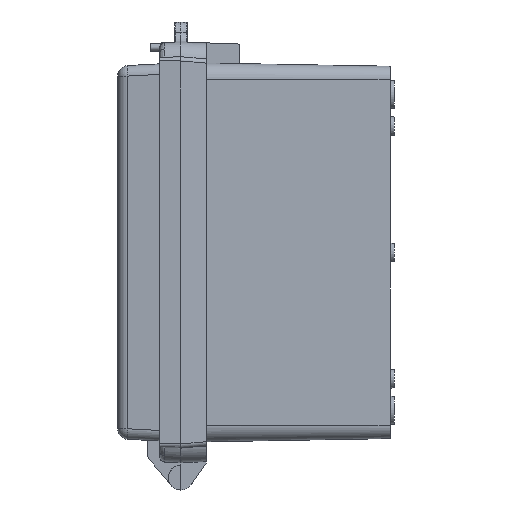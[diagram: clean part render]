
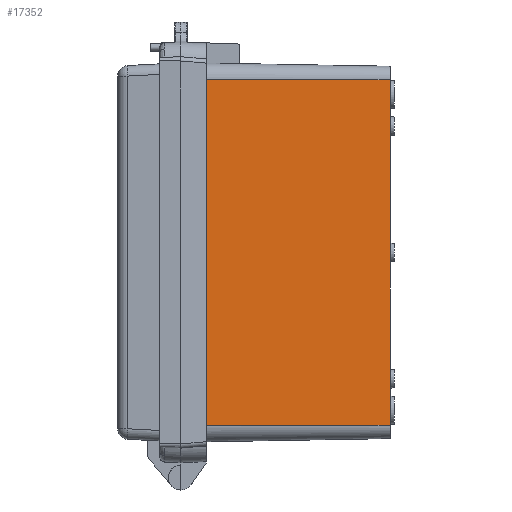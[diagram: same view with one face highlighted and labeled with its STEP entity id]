
A CAD part, left-side view. The second image highlights one B-rep face of the part: STEP entity #17352.
In plain terms, the highlighted planar face has unit normal (-1, -0.018, 0).
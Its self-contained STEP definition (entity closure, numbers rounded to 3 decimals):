
#340 = CARTESIAN_POINT ( 'NONE',  ( -140.148, -3.5, -1.597 ) ) ;
#463 = DIRECTION ( 'NONE',  ( 0., 0., -1. ) ) ;
#1056 = CARTESIAN_POINT ( 'NONE',  ( -140.148, -3.5, 61.597 ) ) ;
#1097 = CARTESIAN_POINT ( 'NONE',  ( -140.148, -3.5, -94.653 ) ) ;
#1313 = FACE_OUTER_BOUND ( 'NONE', #14521, .T. ) ;
#1485 = VERTEX_POINT ( 'NONE', #1056 ) ;
#1547 = VERTEX_POINT ( 'NONE', #18793 ) ;
#1633 = DIRECTION ( 'NONE',  ( -0.017, 0.999, -0.035 ) ) ;
#2095 = EDGE_CURVE ( 'NONE', #12551, #12545, #16197, .T. ) ;
#2211 = EDGE_CURVE ( 'NONE', #3135, #12884, #16615, .T. ) ;
#2596 = CARTESIAN_POINT ( 'NONE',  ( -140., -12., 61.3 ) ) ;
#2612 = CARTESIAN_POINT ( 'NONE',  ( -140.148, -3.5, -94.653 ) ) ;
#2636 = ORIENTED_EDGE ( 'NONE', *, *, #14193, .T. ) ;
#2866 = DIRECTION ( 'NONE',  ( 0., 0., -1. ) ) ;
#2896 = CARTESIAN_POINT ( 'NONE',  ( -140.148, -3.5, -58.403 ) ) ;
#2982 = EDGE_CURVE ( 'NONE', #5088, #3135, #17079, .T. ) ;
#3135 = VERTEX_POINT ( 'NONE', #14815 ) ;
#3246 = LINE ( 'NONE', #16284, #17435 ) ;
#3864 = VERTEX_POINT ( 'NONE', #340 ) ;
#3994 = CARTESIAN_POINT ( 'NONE',  ( -140.126, -4.764, -58.447 ) ) ;
#4062 = CARTESIAN_POINT ( 'NONE',  ( -138.474, -99.4, -82.15 ) ) ;
#4079 = ORIENTED_EDGE ( 'NONE', *, *, #9132, .F. ) ;
#4127 = DIRECTION ( 'NONE',  ( -0.017, 0.999, -0.035 ) ) ;
#4201 = VECTOR ( 'NONE', #8280, 1000. ) ;
#4220 = VECTOR ( 'NONE', #19032, 1000. ) ;
#5067 = DIRECTION ( 'NONE',  ( 0.017, -0.999, -0.035 ) ) ;
#5088 = VERTEX_POINT ( 'NONE', #2596 ) ;
#5094 = VERTEX_POINT ( 'NONE', #15632 ) ;
#5485 = VECTOR ( 'NONE', #18082, 1000. ) ;
#5583 = VECTOR ( 'NONE', #463, 1000. ) ;
#5787 = VECTOR ( 'NONE', #20586, 1000. ) ;
#6015 = DIRECTION ( 'NONE',  ( 0.017, -1., 0. ) ) ;
#6092 = EDGE_CURVE ( 'NONE', #19276, #1485, #18304, .T. ) ;
#6301 = EDGE_CURVE ( 'NONE', #1547, #12551, #12755, .T. ) ;
#6493 = ORIENTED_EDGE ( 'NONE', *, *, #6092, .T. ) ;
#6561 = VECTOR ( 'NONE', #16671, 1000. ) ;
#6982 = CARTESIAN_POINT ( 'NONE',  ( -140.09, -6.856, 1.48 ) ) ;
#7252 = VECTOR ( 'NONE', #14252, 1000. ) ;
#7393 = CARTESIAN_POINT ( 'NONE',  ( -140.148, -3.5, 1.597 ) ) ;
#7508 = ORIENTED_EDGE ( 'NONE', *, *, #18879, .T. ) ;
#7926 = DIRECTION ( 'NONE',  ( 0., 0., -1. ) ) ;
#7961 = VECTOR ( 'NONE', #5067, 1000. ) ;
#8017 = ORIENTED_EDGE ( 'NONE', *, *, #8118, .T. ) ;
#8027 = EDGE_CURVE ( 'NONE', #13348, #10864, #16933, .T. ) ;
#8051 = EDGE_CURVE ( 'NONE', #5094, #13655, #20122, .T. ) ;
#8118 = EDGE_CURVE ( 'NONE', #17836, #5094, #15641, .T. ) ;
#8280 = DIRECTION ( 'NONE',  ( 0., 0., -1. ) ) ;
#8370 = DIRECTION ( 'NONE',  ( 0.017, -1., 0. ) ) ;
#8461 = ORIENTED_EDGE ( 'NONE', *, *, #2211, .T. ) ;
#8593 = ORIENTED_EDGE ( 'NONE', *, *, #8027, .T. ) ;
#8686 = DIRECTION ( 'NONE',  ( -0.017, 0.999, -0.035 ) ) ;
#8836 = CARTESIAN_POINT ( 'NONE',  ( -140., -12., -94.653 ) ) ;
#9132 = EDGE_CURVE ( 'NONE', #12875, #12545, #19288, .T. ) ;
#9243 = AXIS2_PLACEMENT_3D ( 'NONE', #2612, #20437, #6015 ) ;
#9376 = EDGE_CURVE ( 'NONE', #3864, #17836, #18942, .T. ) ;
#9474 = LINE ( 'NONE', #16008, #11976 ) ;
#9569 = CARTESIAN_POINT ( 'NONE',  ( -138.474, -99.4, -94.653 ) ) ;
#10432 = CARTESIAN_POINT ( 'NONE',  ( -140.168, -2.347, -61.637 ) ) ;
#10864 = VERTEX_POINT ( 'NONE', #15206 ) ;
#11574 = CARTESIAN_POINT ( 'NONE',  ( -140.148, -3.5, 82.15 ) ) ;
#11976 = VECTOR ( 'NONE', #2866, 1000. ) ;
#12545 = VERTEX_POINT ( 'NONE', #4062 ) ;
#12551 = VERTEX_POINT ( 'NONE', #20295 ) ;
#12755 = LINE ( 'NONE', #20858, #15918 ) ;
#12875 = VERTEX_POINT ( 'NONE', #16976 ) ;
#12884 = VERTEX_POINT ( 'NONE', #20665 ) ;
#13097 = ORIENTED_EDGE ( 'NONE', *, *, #9376, .T. ) ;
#13348 = VERTEX_POINT ( 'NONE', #7393 ) ;
#13362 = LINE ( 'NONE', #20172, #6561 ) ;
#13590 = CARTESIAN_POINT ( 'NONE',  ( -140.148, -3.5, -94.653 ) ) ;
#13655 = VERTEX_POINT ( 'NONE', #17226 ) ;
#14031 = VECTOR ( 'NONE', #18489, 1000. ) ;
#14193 = EDGE_CURVE ( 'NONE', #10864, #14372, #9474, .T. ) ;
#14252 = DIRECTION ( 'NONE',  ( 0., 0., -1. ) ) ;
#14316 = ORIENTED_EDGE ( 'NONE', *, *, #8051, .T. ) ;
#14372 = VERTEX_POINT ( 'NONE', #17173 ) ;
#14521 = EDGE_LOOP ( 'NONE', ( #14316, #7508, #15335, #19367, #4079, #19706, #6493, #20197, #18098, #8461, #17436, #8593, #2636, #17074, #13097, #8017 ) ) ;
#14542 = VECTOR ( 'NONE', #15004, 1000. ) ;
#14697 = EDGE_CURVE ( 'NONE', #12884, #13348, #17005, .T. ) ;
#14815 = CARTESIAN_POINT ( 'NONE',  ( -140., -12., 58.7 ) ) ;
#14990 = VECTOR ( 'NONE', #8370, 1000. ) ;
#14991 = CARTESIAN_POINT ( 'NONE',  ( -140.242, 1.837, 58.217 ) ) ;
#15004 = DIRECTION ( 'NONE',  ( 0., 0., -1. ) ) ;
#15206 = CARTESIAN_POINT ( 'NONE',  ( -140., -12., 1.3 ) ) ;
#15243 = LINE ( 'NONE', #10432, #19462 ) ;
#15335 = ORIENTED_EDGE ( 'NONE', *, *, #6301, .T. ) ;
#15632 = CARTESIAN_POINT ( 'NONE',  ( -140., -12., -58.7 ) ) ;
#15641 = LINE ( 'NONE', #3994, #4220 ) ;
#15918 = VECTOR ( 'NONE', #7926, 1000. ) ;
#16008 = CARTESIAN_POINT ( 'NONE',  ( -140., -12., -94.653 ) ) ;
#16197 = LINE ( 'NONE', #19590, #14990 ) ;
#16284 = CARTESIAN_POINT ( 'NONE',  ( -140.205, -0.255, -1.71 ) ) ;
#16615 = LINE ( 'NONE', #14991, #19077 ) ;
#16671 = DIRECTION ( 'NONE',  ( 0.017, -0.999, -0.035 ) ) ;
#16933 = LINE ( 'NONE', #6982, #7961 ) ;
#16976 = CARTESIAN_POINT ( 'NONE',  ( -138.474, -99.4, 82.15 ) ) ;
#17005 = LINE ( 'NONE', #13590, #14031 ) ;
#17074 = ORIENTED_EDGE ( 'NONE', *, *, #17570, .T. ) ;
#17079 = LINE ( 'NONE', #8836, #5787 ) ;
#17173 = CARTESIAN_POINT ( 'NONE',  ( -140., -12., -1.3 ) ) ;
#17226 = CARTESIAN_POINT ( 'NONE',  ( -140., -12., -61.3 ) ) ;
#17352 = ADVANCED_FACE ( 'NONE', ( #1313 ), #18838, .T. ) ;
#17435 = VECTOR ( 'NONE', #1633, 1000. ) ;
#17436 = ORIENTED_EDGE ( 'NONE', *, *, #14697, .T. ) ;
#17499 = EDGE_CURVE ( 'NONE', #12875, #19276, #17777, .T. ) ;
#17570 = EDGE_CURVE ( 'NONE', #14372, #3864, #3246, .T. ) ;
#17777 = LINE ( 'NONE', #11574, #5485 ) ;
#17836 = VERTEX_POINT ( 'NONE', #2896 ) ;
#18082 = DIRECTION ( 'NONE',  ( -0.017, 1., 0. ) ) ;
#18098 = ORIENTED_EDGE ( 'NONE', *, *, #2982, .T. ) ;
#18213 = CARTESIAN_POINT ( 'NONE',  ( -140., -12., -94.653 ) ) ;
#18304 = LINE ( 'NONE', #20225, #14542 ) ;
#18489 = DIRECTION ( 'NONE',  ( 0., 0., -1. ) ) ;
#18793 = CARTESIAN_POINT ( 'NONE',  ( -140.148, -3.5, -61.597 ) ) ;
#18838 = PLANE ( 'NONE',  #9243 ) ;
#18879 = EDGE_CURVE ( 'NONE', #13655, #1547, #15243, .T. ) ;
#18942 = LINE ( 'NONE', #1097, #7252 ) ;
#19032 = DIRECTION ( 'NONE',  ( 0.017, -0.999, -0.035 ) ) ;
#19077 = VECTOR ( 'NONE', #8686, 1000. ) ;
#19276 = VERTEX_POINT ( 'NONE', #19571 ) ;
#19288 = LINE ( 'NONE', #9569, #4201 ) ;
#19367 = ORIENTED_EDGE ( 'NONE', *, *, #2095, .T. ) ;
#19462 = VECTOR ( 'NONE', #4127, 1000. ) ;
#19571 = CARTESIAN_POINT ( 'NONE',  ( -140.148, -3.5, 82.15 ) ) ;
#19590 = CARTESIAN_POINT ( 'NONE',  ( -140.148, -3.5, -82.15 ) ) ;
#19706 = ORIENTED_EDGE ( 'NONE', *, *, #17499, .T. ) ;
#19805 = EDGE_CURVE ( 'NONE', #1485, #5088, #13362, .T. ) ;
#20122 = LINE ( 'NONE', #18213, #5583 ) ;
#20172 = CARTESIAN_POINT ( 'NONE',  ( -140.053, -8.948, 61.407 ) ) ;
#20197 = ORIENTED_EDGE ( 'NONE', *, *, #19805, .T. ) ;
#20225 = CARTESIAN_POINT ( 'NONE',  ( -140.148, -3.5, -94.653 ) ) ;
#20295 = CARTESIAN_POINT ( 'NONE',  ( -140.148, -3.5, -82.15 ) ) ;
#20437 = DIRECTION ( 'NONE',  ( -1., -0.017, 0. ) ) ;
#20586 = DIRECTION ( 'NONE',  ( 0., 0., -1. ) ) ;
#20665 = CARTESIAN_POINT ( 'NONE',  ( -140.148, -3.5, 58.403 ) ) ;
#20858 = CARTESIAN_POINT ( 'NONE',  ( -140.148, -3.5, -94.653 ) ) ;
